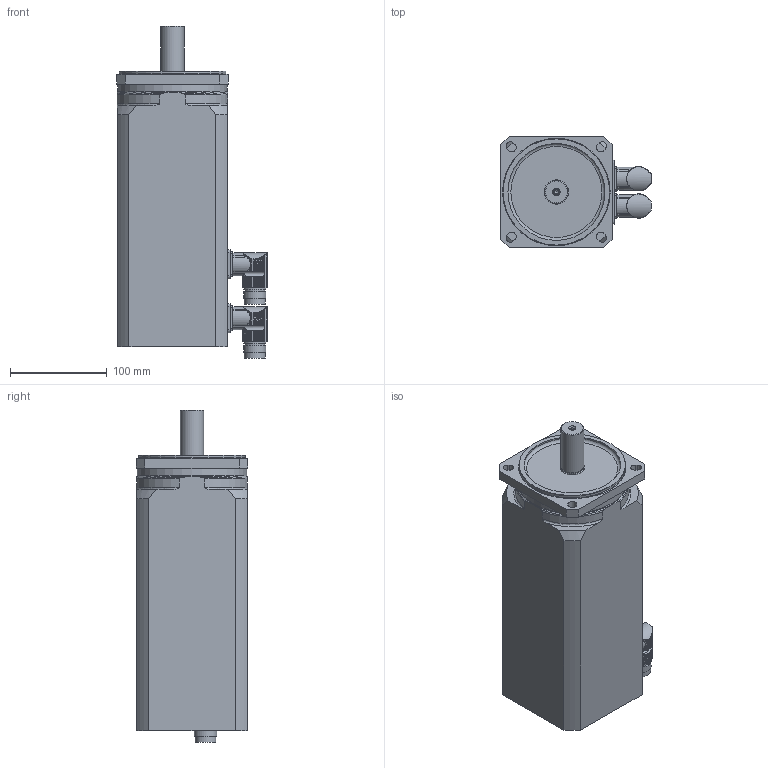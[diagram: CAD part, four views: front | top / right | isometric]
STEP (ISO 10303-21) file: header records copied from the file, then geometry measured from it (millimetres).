
FILE_DESCRIPTION(/* description */ (''),/* implementation_level */ '2;1');
FILE_NAME(/* name */ 'MR 7446-Ux-Nxxx-G01-A0D-MS',/* time_stamp */ '2007-07-13T09:50:00+01:00',/* author */ (''),/* organization */ ('ESR Pollmeier GmbH'),/* preprocessor_version */ 'ST-DEVELOPER v8',/* originating_system */ 'UNIGRAPHICS SOLUTIONS - UNIGRAPHICS 18.0',/* authorisation */ '');
FILE_SCHEMA (('AUTOMOTIVE_DESIGN { 1 2 10303 214 0 1 1 1 }'));
Length unit declared in the file: millimetre
Products named in the file (3): Winkelflanschdose_0; Rotor_SY4_0; MR7446-Ux-Nxxx-G01-A0D-MS_0
Assembly tree (3 placements, depth 2):
  MR7446-Ux-Nxxx-G01-A0D-MS_0
    Rotor_SY4_0
    Winkelflanschdose_0  x2
Bounding box: 155.49 x 115 x 342.65 mm (x, y, z)
Volume: 3626050.6 mm3; surface area: 173850.1 mm2
Topology: 4 solids, 4 shells, 427 faces, 1192 edges, 791 vertices
Faces by surface type: cylinder 320, plane 82, torus 15, cone 10
Full cylindrical faces by diameter (mm): 4.351 x1, 5.5 x1, 16 x2, 21 x2, 21.5 x2, 23 x4, 23.52 x1, 24 x1, 25 x1, 100 x1, 110 x1, 113 x1
Entity records: 8914 total; most frequent: CARTESIAN_POINT 2301, ORIENTED_EDGE 1382, DIRECTION 1304, EDGE_CURVE 691, AXIS2_PLACEMENT_3D 514, VERTEX_POINT 473, EDGE_LOOP 309, LINE 276
